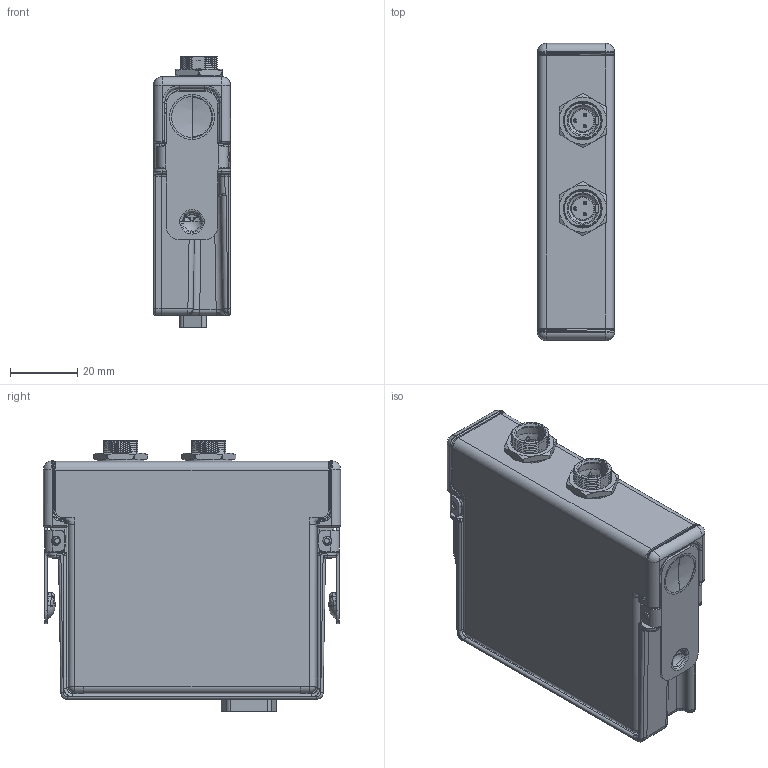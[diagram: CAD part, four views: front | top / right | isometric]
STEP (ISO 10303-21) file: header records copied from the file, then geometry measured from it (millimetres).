
FILE_DESCRIPTION((''),'2;1');
FILE_NAME('CU_NI-9260_MINI_XLR','2014-10-31T',('dkendric'),(''),'PRO/ENGINEER BY PARAMETRIC TECHNOLOGY CORPORATION, 2014000','PRO/ENGINEER BY PARAMETRIC TECHNOLOGY CORPORATION, 2014000','');
FILE_SCHEMA(('CONFIG_CONTROL_DESIGN'));
Products named in the file (1): CU_NI-9260_MINI_XLR
Bounding box: 22.86 x 88.11 x 80.18 mm (x, y, z)
Volume: 13061.8 mm3; surface area: 50327.2 mm2
Topology: 7 solids, 102 shells, 2112 faces, 5514 edges, 3486 vertices
Faces by surface type: plane 702, cylinder 686, bspline 415, cone 124, torus 92, sphere 47, extrusion 46
Entity records: 87167 total; most frequent: CARTESIAN_POINT 39807, ORIENTED_EDGE 10568, DIRECTION 8358, EDGE_CURVE 5460, VERTEX_POINT 3524, AXIS2_PLACEMENT_3D 3017, VECTOR 2324, LINE 2278
